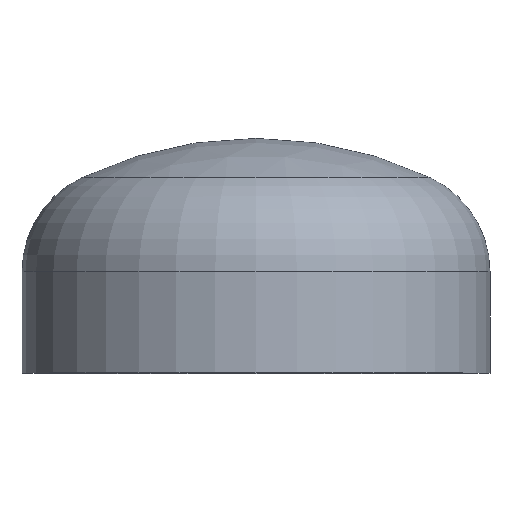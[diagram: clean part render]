
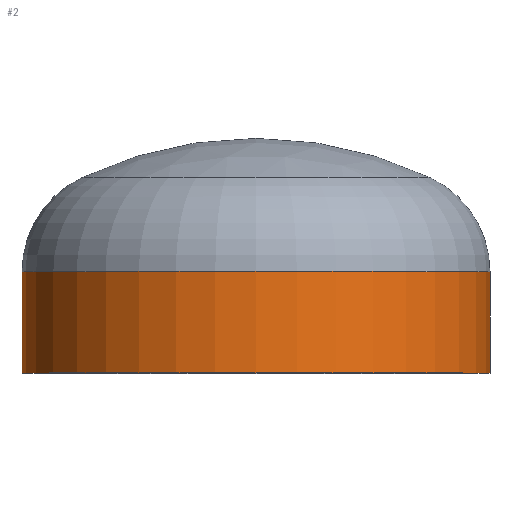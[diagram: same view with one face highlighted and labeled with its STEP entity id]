
A CAD part, top view. The second image highlights one B-rep face of the part: STEP entity #2.
In plain terms, the highlighted cylindrical face has radius 254 mm (diameter 508 mm), a partial arc.
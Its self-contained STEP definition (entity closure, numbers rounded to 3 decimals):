
#2 = ADVANCED_FACE ( 'NONE', ( #396 ), #139, .T. ) ;
#36 = EDGE_CURVE ( 'NONE', #144, #90, #160, .T. ) ;
#49 = EDGE_CURVE ( 'NONE', #173, #105, #224, .T. ) ;
#87 = AXIS2_PLACEMENT_3D ( 'NONE', #291, #254, #289 ) ;
#90 = VERTEX_POINT ( 'NONE', #335 ) ;
#93 = AXIS2_PLACEMENT_3D ( 'NONE', #236, #231, #244 ) ;
#96 = AXIS2_PLACEMENT_3D ( 'NONE', #341, #339, #337 ) ;
#99 = EDGE_CURVE ( 'NONE', #105, #90, #274, .T. ) ;
#103 = ORIENTED_EDGE ( 'NONE', *, *, #198, .F. ) ;
#105 = VERTEX_POINT ( 'NONE', #295 ) ;
#139 = CYLINDRICAL_SURFACE ( 'NONE', #87, 254. ) ;
#144 = VERTEX_POINT ( 'NONE', #384 ) ;
#147 = EDGE_LOOP ( 'NONE', ( #152, #155, #166, #103 ) ) ;
#152 = ORIENTED_EDGE ( 'NONE', *, *, #49, .T. ) ;
#155 = ORIENTED_EDGE ( 'NONE', *, *, #99, .T. ) ;
#160 = CIRCLE ( 'NONE', #93, 254. ) ;
#166 = ORIENTED_EDGE ( 'NONE', *, *, #36, .F. ) ;
#173 = VERTEX_POINT ( 'NONE', #275 ) ;
#197 = CARTESIAN_POINT ( 'NONE',  ( 254., 0., 0. ) ) ;
#198 = EDGE_CURVE ( 'NONE', #173, #144, #367, .T. ) ;
#200 = CARTESIAN_POINT ( 'NONE',  ( -254., 0., 0. ) ) ;
#212 = VECTOR ( 'NONE', #334, 1000. ) ;
#224 = CIRCLE ( 'NONE', #96, 254. ) ;
#231 = DIRECTION ( 'NONE',  ( 0., -1., 0. ) ) ;
#236 = CARTESIAN_POINT ( 'NONE',  ( 0., 0., 0. ) ) ;
#244 = DIRECTION ( 'NONE',  ( 1., 0., 0. ) ) ;
#254 = DIRECTION ( 'NONE',  ( 0., -1., 0. ) ) ;
#274 = LINE ( 'NONE', #200, #212 ) ;
#275 = CARTESIAN_POINT ( 'NONE',  ( 254., 110., 0. ) ) ;
#289 = DIRECTION ( 'NONE',  ( 1., 0., 0. ) ) ;
#291 = CARTESIAN_POINT ( 'NONE',  ( 0., 0., 0. ) ) ;
#295 = CARTESIAN_POINT ( 'NONE',  ( -254., 110., 0. ) ) ;
#301 = VECTOR ( 'NONE', #381, 1000. ) ;
#334 = DIRECTION ( 'NONE',  ( 0., -1., 0. ) ) ;
#335 = CARTESIAN_POINT ( 'NONE',  ( -254., 0., 0. ) ) ;
#337 = DIRECTION ( 'NONE',  ( 1., 0., 0. ) ) ;
#339 = DIRECTION ( 'NONE',  ( 0., -1., 0. ) ) ;
#341 = CARTESIAN_POINT ( 'NONE',  ( 0., 110., 0. ) ) ;
#367 = LINE ( 'NONE', #197, #301 ) ;
#381 = DIRECTION ( 'NONE',  ( 0., -1., 0. ) ) ;
#384 = CARTESIAN_POINT ( 'NONE',  ( 254., 0., 0. ) ) ;
#396 = FACE_OUTER_BOUND ( 'NONE', #147, .T. ) ;
